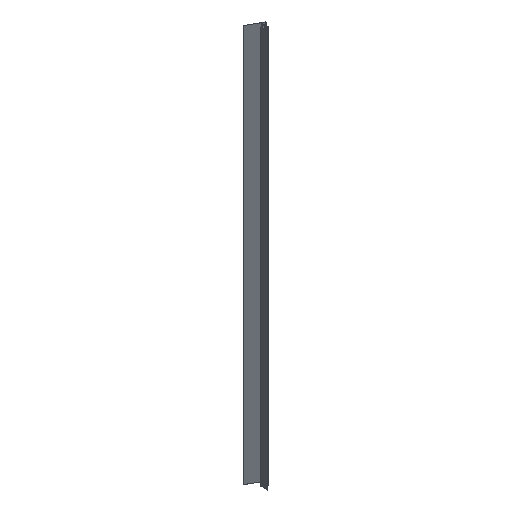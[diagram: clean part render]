
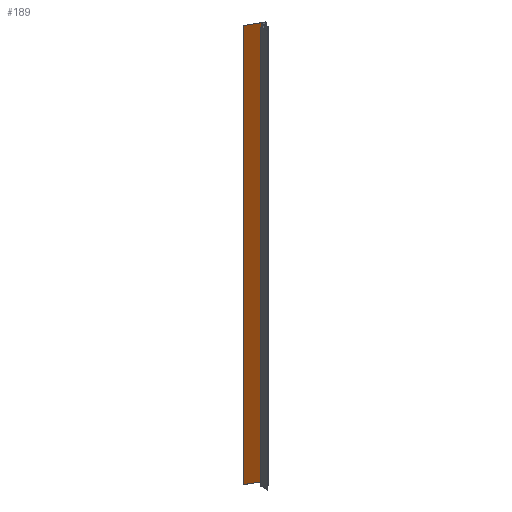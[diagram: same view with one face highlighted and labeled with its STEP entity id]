
A CAD part, isometric view. The second image highlights one B-rep face of the part: STEP entity #189.
In plain terms, the highlighted planar face has unit normal (-0.5, -0.866, 0).
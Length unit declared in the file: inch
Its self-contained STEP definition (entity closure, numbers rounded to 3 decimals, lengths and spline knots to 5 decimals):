
#61 = PLANE ( 'NONE',  #1045 ) ;
#72 = VECTOR ( 'NONE', #309, 39.37008 ) ;
#91 = DIRECTION ( 'NONE',  ( 0., 0., -1. ) ) ;
#99 = VERTEX_POINT ( 'NONE', #422 ) ;
#128 = CARTESIAN_POINT ( 'NONE',  ( 0.88235, -0.26561, 120. ) ) ;
#141 = CARTESIAN_POINT ( 'NONE',  ( -3.30055, 2.14939, 120. ) ) ;
#156 = DIRECTION ( 'NONE',  ( -0.866, 0.5, 0. ) ) ;
#171 = EDGE_CURVE ( 'NONE', #99, #369, #967, .T. ) ;
#189 = ADVANCED_FACE ( 'NONE', ( #700 ), #61, .F. ) ;
#212 = LINE ( 'NONE', #340, #669 ) ;
#309 = DIRECTION ( 'NONE',  ( 0.866, -0.5, 0. ) ) ;
#331 = CARTESIAN_POINT ( 'NONE',  ( -3.30055, 2.14939, 120. ) ) ;
#340 = CARTESIAN_POINT ( 'NONE',  ( -3.30055, 2.14939, 120. ) ) ;
#363 = VECTOR ( 'NONE', #560, 39.37008 ) ;
#369 = VERTEX_POINT ( 'NONE', #968 ) ;
#422 = CARTESIAN_POINT ( 'NONE',  ( -3.30055, 2.14939, 0. ) ) ;
#429 = CARTESIAN_POINT ( 'NONE',  ( -3.30055, 2.14939, 0. ) ) ;
#438 = ORIENTED_EDGE ( 'NONE', *, *, #443, .F. ) ;
#443 = EDGE_CURVE ( 'NONE', #634, #1013, #650, .T. ) ;
#501 = DIRECTION ( 'NONE',  ( 0.866, -0.5, 0. ) ) ;
#553 = ORIENTED_EDGE ( 'NONE', *, *, #1043, .T. ) ;
#560 = DIRECTION ( 'NONE',  ( 0., 0., -1. ) ) ;
#603 = CARTESIAN_POINT ( 'NONE',  ( -3.30055, 2.14939, 120. ) ) ;
#634 = VERTEX_POINT ( 'NONE', #331 ) ;
#645 = DIRECTION ( 'NONE',  ( 0.5, 0.866, 0. ) ) ;
#650 = LINE ( 'NONE', #141, #72 ) ;
#660 = LINE ( 'NONE', #729, #363 ) ;
#669 = VECTOR ( 'NONE', #91, 39.37008 ) ;
#700 = FACE_OUTER_BOUND ( 'NONE', #776, .T. ) ;
#729 = CARTESIAN_POINT ( 'NONE',  ( 0.88235, -0.26561, 120. ) ) ;
#776 = EDGE_LOOP ( 'NONE', ( #835, #894, #438, #553 ) ) ;
#835 = ORIENTED_EDGE ( 'NONE', *, *, #171, .T. ) ;
#894 = ORIENTED_EDGE ( 'NONE', *, *, #945, .F. ) ;
#945 = EDGE_CURVE ( 'NONE', #1013, #369, #660, .T. ) ;
#967 = LINE ( 'NONE', #429, #1079 ) ;
#968 = CARTESIAN_POINT ( 'NONE',  ( 0.88235, -0.26561, 0. ) ) ;
#1013 = VERTEX_POINT ( 'NONE', #128 ) ;
#1043 = EDGE_CURVE ( 'NONE', #634, #99, #212, .T. ) ;
#1045 = AXIS2_PLACEMENT_3D ( 'NONE', #603, #645, #156 ) ;
#1079 = VECTOR ( 'NONE', #501, 39.37008 ) ;
